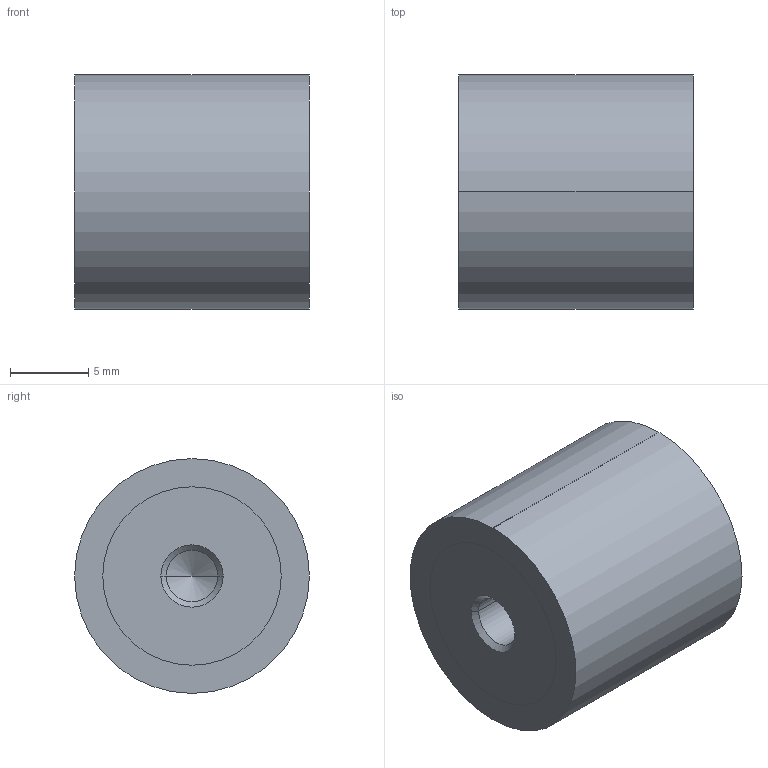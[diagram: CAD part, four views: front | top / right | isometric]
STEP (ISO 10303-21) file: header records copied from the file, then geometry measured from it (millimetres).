
FILE_DESCRIPTION (( 'STEP AP214' ), '1' );
FILE_NAME ('451-15-15-M4-EE-70.step', '2020-03-05T09:10:21', ( '' ), ( '' ), 'SwSTEP 2.0', 'SolidWorks 2019', '' );
FILE_SCHEMA (( 'AUTOMOTIVE_DESIGN' ));
Length unit declared in the file: millimetre
Products named in the file (1): 451-15-15-M4-EE-70
Bounding box: 15 x 15 x 15 mm (x, y, z)
Volume: 2573.5 mm3; surface area: 1142.8 mm2
Topology: 1 solids, 1 shells, 22 faces, 46 edges, 26 vertices
Faces by surface type: cylinder 10, cone 8, plane 4
Entity records: 684 total; most frequent: DIRECTION 112, CARTESIAN_POINT 91, ORIENTED_EDGE 84, AXIS2_PLACEMENT_3D 47, EDGE_CURVE 42, VERTEX_POINT 26, EDGE_LOOP 26, CIRCLE 24
